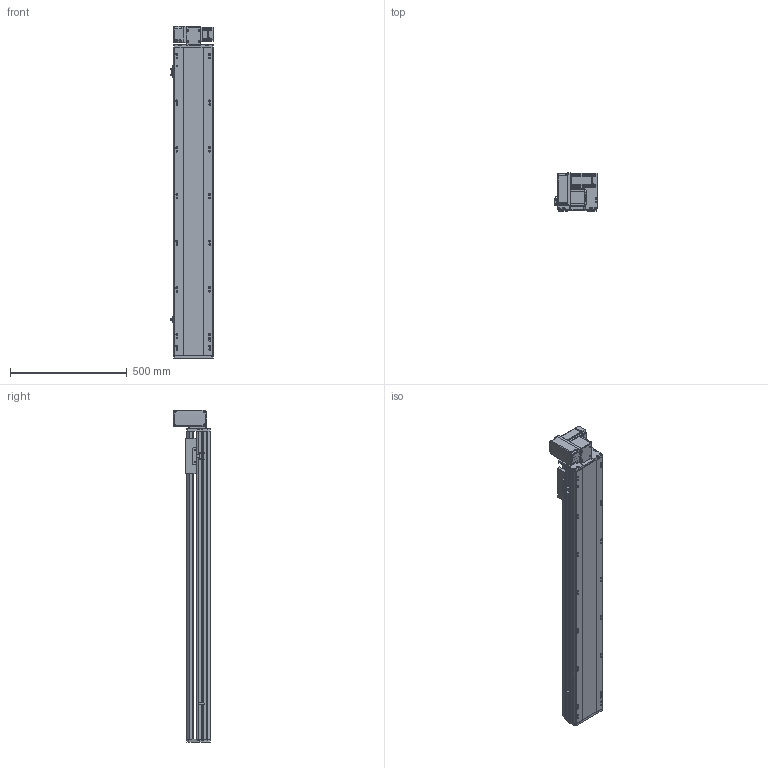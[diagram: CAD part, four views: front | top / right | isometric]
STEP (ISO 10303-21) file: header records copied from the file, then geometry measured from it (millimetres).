
FILE_DESCRIPTION (( 'STEP AP214' ), '1' );
FILE_NAME ('RTB17S-XX-1050-LW-M40-C4.STEP', '2025-12-11T07:04:31', ( '' ), ( '' ), 'SwSTEP 2.0', 'SolidWorks 2018', '' );
FILE_SCHEMA (( 'AUTOMOTIVE_DESIGN' ));
Length unit declared in the file: millimetre
Products named in the file (14): RTB17S-L-001耜醱啣^RTB17S-XX-XX-LW-M40-C4; 400W侜督萇儂^RTB17S-XX-XX-LW-M40-C4; RTB17S-XX-1050-LW-M40-C4; RTH13-BL-012覜茼え俋离^RTB17S-XX-XX-LW-M40-C4; RTB17-R-011菁釱^RTB17S-XX-XX-LW-M40-C4; RTB14-L-017P^RTB17S-LW-々湍釱蚾饜-400W_RTB17S-XX-XX-LW-M40-C4; RTB17S-LW-々湍釱蚾饜-400W^RTB17S-XX-XX-LW-M40-C4; RTB17S-L-014-T20--々湍釱^RTB17S-LW-々湍釱蚾饜-400W_RTB17S-XX-XX-LW-M40-C4; OMRON EE-SX672 传感器^RTB17S-XX-XX-LW-M40-C4; RTB14-L-005P--轴承塑胶压盖^RTB17S-LW-皮带座装配-400W_RTB17S-XX-XX-LW-M40-C4; RTB17S-L-007奻裔^RTB17S-XX-XX-LW-M40-C4; RTB14-L-008-M20--萇儂啣^RTB17S-LW-々湍釱蚾饜-400W_RTB17S-XX-XX-LW-M40-C4; RTB14-L-018P^RTB17S-LW-々湍釱蚾饜-400W_RTB17S-XX-XX-LW-M40-C4; RTB17S-L-004佪裝蹟譫蟀諉釱^RTB17S-XX-XX-LW-M40-C4
Assembly tree (16 placements, depth 3):
  RTB17S-XX-1050-LW-M40-C4
    RTB17-R-011菁釱^RTB17S-XX-XX-LW-M40-C4
    RTB17S-L-007奻裔^RTB17S-XX-XX-LW-M40-C4
    OMRON EE-SX672 传感器^RTB17S-XX-XX-LW-M40-C4  x3
    RTB17S-L-001耜醱啣^RTB17S-XX-XX-LW-M40-C4
    400W侜督萇儂^RTB17S-XX-XX-LW-M40-C4
    RTB17S-L-004佪裝蹟譫蟀諉釱^RTB17S-XX-XX-LW-M40-C4
    RTH13-BL-012覜茼え俋离^RTB17S-XX-XX-LW-M40-C4
    RTB17S-LW-々湍釱蚾饜-400W^RTB17S-XX-XX-LW-M40-C4
      RTB17S-L-014-T20--々湍釱^RTB17S-LW-々湍釱蚾饜-400W_RTB17S-XX-XX-LW-M40-C4
      RTB14-L-005P--轴承塑胶压盖^RTB17S-LW-皮带座装配-400W_RTB17S-XX-XX-LW-M40-C4
      RTB14-L-008-M20--萇儂啣^RTB17S-LW-々湍釱蚾饜-400W_RTB17S-XX-XX-LW-M40-C4
      RTB14-L-017P^RTB17S-LW-々湍釱蚾饜-400W_RTB17S-XX-XX-LW-M40-C4  x2
      RTB14-L-018P^RTB17S-LW-々湍釱蚾饜-400W_RTB17S-XX-XX-LW-M40-C4
Bounding box: 186 x 160.5 x 1422.5 mm (x, y, z)
Volume: 12776869.5 mm3; surface area: 1544328 mm2
Topology: 15 solids, 15 shells, 2221 faces, 6141 edges, 4005 vertices
Faces by surface type: plane 1070, cylinder 703, bspline 301, cone 139, torus 8
Entity records: 63401 total; most frequent: CARTESIAN_POINT 17746, ORIENTED_EDGE 9126, DIRECTION 8486, EDGE_CURVE 4563, VERTEX_POINT 2993, AXIS2_PLACEMENT_3D 2923, LINE 2640, VECTOR 2640
